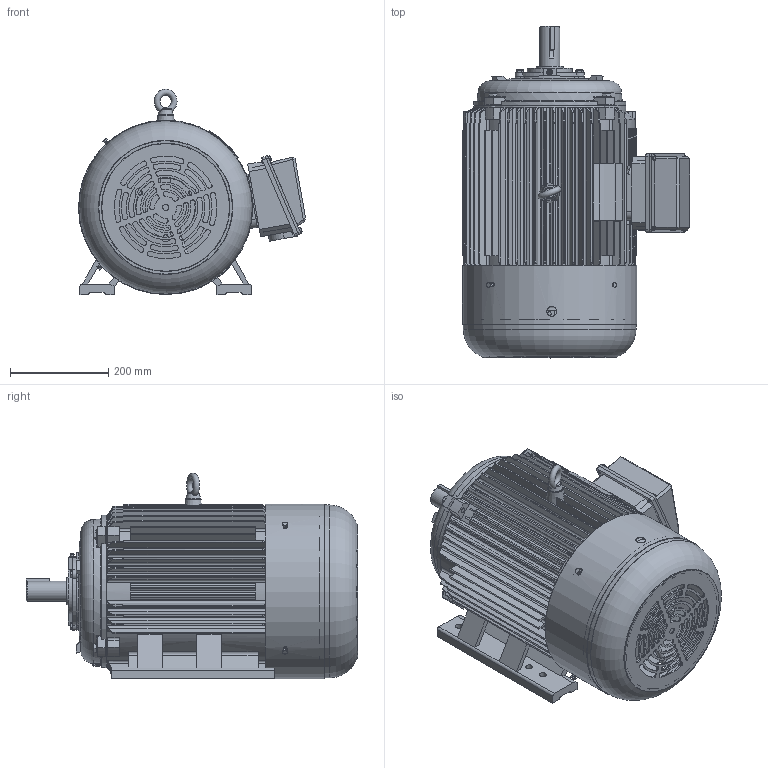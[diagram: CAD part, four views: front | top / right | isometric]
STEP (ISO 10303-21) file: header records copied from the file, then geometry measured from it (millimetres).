
FILE_DESCRIPTION(('STEP AP203'),'1');
FILE_NAME('d:/我的文档/桌面/装配13.stp','2015-03-08T02:01:09',(' '),(' '),'Spatial InterOp 3D',' ',' ');
FILE_SCHEMA(('CONFIG_CONTROL_DESIGN'));
Length unit declared in the file: metre
Products named in the file (42): __12; 零件1; 零件6; __2; __5; 零件7; 零件17; 零件8; __6; 螺栓 ： 带槽六角头 - M6.0 x 16.0; 螺栓 ： 带槽六角头 - M5.0 x 16.0; 螺栓 ： 六角头 - M8.0 x 60.0; 螺栓 ： 六角头 - M10.0 x 45.0; 垫圈 ： 平垫圈 - M10.0 x 2.0; __7; __11; 螺栓 ： 六角头 - M6.0 x 16.0; __13
Assembly tree (41 placements, depth 4):
  __13
    __12
      零件1
      零件6
      __2
        零件6
      零件6
      零件6
      零件6
      __5
        零件7
        零件17
      零件6
      零件8
      __6
        零件6
      螺栓 ： 带槽六角头 - M6.0 x 16.0
      螺栓 ： 带槽六角头 - M6.0 x 16.0
      螺栓 ： 带槽六角头 - M5.0 x 16.0
      螺栓 ： 带槽六角头 - M6.0 x 16.0
      螺栓 ： 六角头 - M8.0 x 60.0
      螺栓 ： 六角头 - M8.0 x 60.0
      螺栓 ： 六角头 - M8.0 x 60.0
      螺栓 ： 六角头 - M10.0 x 45.0
      垫圈 ： 平垫圈 - M10.0 x 2.0
      螺栓 ： 六角头 - M10.0 x 45.0
      垫圈 ： 平垫圈 - M10.0 x 2.0
      螺栓 ： 六角头 - M10.0 x 45.0
      垫圈 ： 平垫圈 - M10.0 x 2.0
      螺栓 ： 六角头 - M10.0 x 45.0
      垫圈 ： 平垫圈 - M10.0 x 2.0
      __7
        零件6
      __11
        零件1
      零件6
      零件1
      螺栓 ： 六角头 - M6.0 x 16.0
      螺栓 ： 六角头 - M6.0 x 16.0
      螺栓 ： 六角头 - M6.0 x 16.0
      螺栓 ： 六角头 - M6.0 x 16.0
    零件1
Bounding box: 462.3 x 675.76 x 418.75 mm (x, y, z)
Volume: 40950018.7 mm3; surface area: 2776796.7 mm2
Topology: 37 solids, 37 shells, 1891 faces, 5000 edges, 3297 vertices
Faces by surface type: plane 795, cylinder 777, cone 265, torus 32, bspline 22
Full cylindrical faces by diameter (mm): 3 x1, 4 x1, 5 x1, 6 x20, 7.5 x4, 8 x24, 10 x32, 11 x4, 12 x8, 12.5 x1, 14 x6, 17 x1, 20 x6, 28.2 x1, 30 x2, 41 x1, 45 x2, 52 x1, 55 x7, 68 x1, 70 x4, 88 x1, 90 x2, 92 x1, 100 x2, 105 x1, 110 x2, 120 x3, 260 x1, 272 x1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
Entity records: 71824 total; most frequent: CARTESIAN_POINT 24107, ORIENTED_EDGE 9458, DIRECTION 9251, EDGE_CURVE 4729, AXIS2_PLACEMENT_3D 3550, VERTEX_POINT 3215, EDGE_LOOP 2390, LINE 2151
